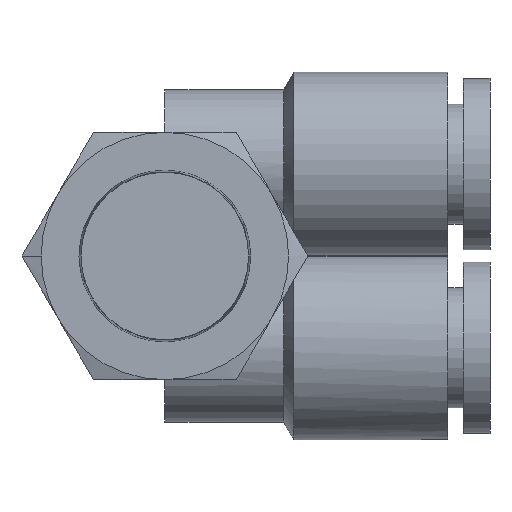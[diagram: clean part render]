
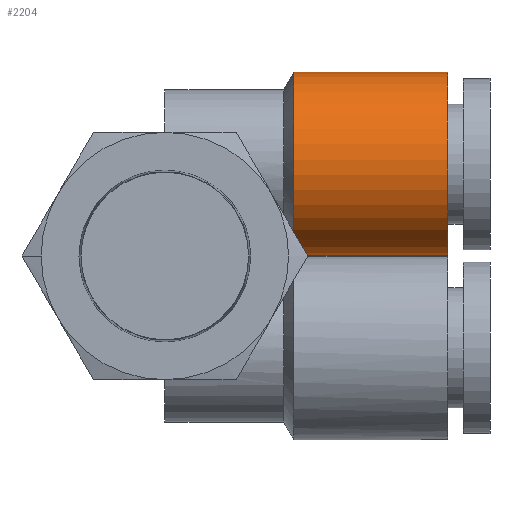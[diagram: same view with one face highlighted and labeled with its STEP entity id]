
A CAD part, front view. The second image highlights one B-rep face of the part: STEP entity #2204.
In plain terms, the highlighted cylindrical face has radius 5.2 mm (diameter 10.4 mm), a partial arc.
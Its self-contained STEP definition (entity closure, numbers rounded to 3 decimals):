
#115 = CARTESIAN_POINT ( 'NONE',  ( 0., 12.4, 5.2 ) ) ;
#219 = VERTEX_POINT ( 'NONE', #2847 ) ;
#314 = LINE ( 'NONE', #3293, #2629 ) ;
#496 = CARTESIAN_POINT ( 'NONE',  ( 7.3, 12.4, 5.2 ) ) ;
#714 = CIRCLE ( 'NONE', #1484, 5.2 ) ;
#829 = EDGE_CURVE ( 'NONE', #3076, #3608, #314, .T. ) ;
#1090 = EDGE_CURVE ( 'NONE', #3076, #1221, #4203, .T. ) ;
#1157 = ORIENTED_EDGE ( 'NONE', *, *, #3696, .T. ) ;
#1210 = DIRECTION ( 'NONE',  ( 0., 0., 1. ) ) ;
#1221 = VERTEX_POINT ( 'NONE', #3356 ) ;
#1355 = EDGE_CURVE ( 'NONE', #1221, #219, #2025, .T. ) ;
#1418 = DIRECTION ( 'NONE',  ( 0., 0., 1. ) ) ;
#1471 = ORIENTED_EDGE ( 'NONE', *, *, #1090, .F. ) ;
#1484 = AXIS2_PLACEMENT_3D ( 'NONE', #3914, #4156, #1210 ) ;
#1647 = DIRECTION ( 'NONE',  ( 1., 0., 0. ) ) ;
#1703 = CARTESIAN_POINT ( 'NONE',  ( 0., 12.4, 10.4 ) ) ;
#1720 = CARTESIAN_POINT ( 'NONE',  ( 7.3, 11.9, 0.024 ) ) ;
#1863 = ORIENTED_EDGE ( 'NONE', *, *, #829, .T. ) ;
#1978 = DIRECTION ( 'NONE',  ( 0., 0., 1. ) ) ;
#2025 = LINE ( 'NONE', #1703, #2162 ) ;
#2148 = AXIS2_PLACEMENT_3D ( 'NONE', #496, #3105, #1418 ) ;
#2162 = VECTOR ( 'NONE', #3020, 1000. ) ;
#2204 = ADVANCED_FACE ( 'NONE', ( #2310 ), #2670, .T. ) ;
#2287 = EDGE_LOOP ( 'NONE', ( #4086, #1471, #1863, #1157 ) ) ;
#2297 = AXIS2_PLACEMENT_3D ( 'NONE', #115, #3299, #1978 ) ;
#2310 = FACE_OUTER_BOUND ( 'NONE', #2287, .T. ) ;
#2629 = VECTOR ( 'NONE', #1647, 1000. ) ;
#2670 = CYLINDRICAL_SURFACE ( 'NONE', #2297, 5.2 ) ;
#2847 = CARTESIAN_POINT ( 'NONE',  ( 16., 12.4, 10.4 ) ) ;
#3020 = DIRECTION ( 'NONE',  ( 1., 0., 0. ) ) ;
#3076 = VERTEX_POINT ( 'NONE', #1720 ) ;
#3105 = DIRECTION ( 'NONE',  ( -1., 0., 0. ) ) ;
#3293 = CARTESIAN_POINT ( 'NONE',  ( 0., 11.9, 0.024 ) ) ;
#3299 = DIRECTION ( 'NONE',  ( 1., 0., 0. ) ) ;
#3356 = CARTESIAN_POINT ( 'NONE',  ( 7.3, 12.4, 10.4 ) ) ;
#3608 = VERTEX_POINT ( 'NONE', #4238 ) ;
#3696 = EDGE_CURVE ( 'NONE', #3608, #219, #714, .T. ) ;
#3914 = CARTESIAN_POINT ( 'NONE',  ( 16., 12.4, 5.2 ) ) ;
#4086 = ORIENTED_EDGE ( 'NONE', *, *, #1355, .F. ) ;
#4156 = DIRECTION ( 'NONE',  ( -1., 0., 0. ) ) ;
#4203 = CIRCLE ( 'NONE', #2148, 5.2 ) ;
#4238 = CARTESIAN_POINT ( 'NONE',  ( 16., 11.9, 0.024 ) ) ;
